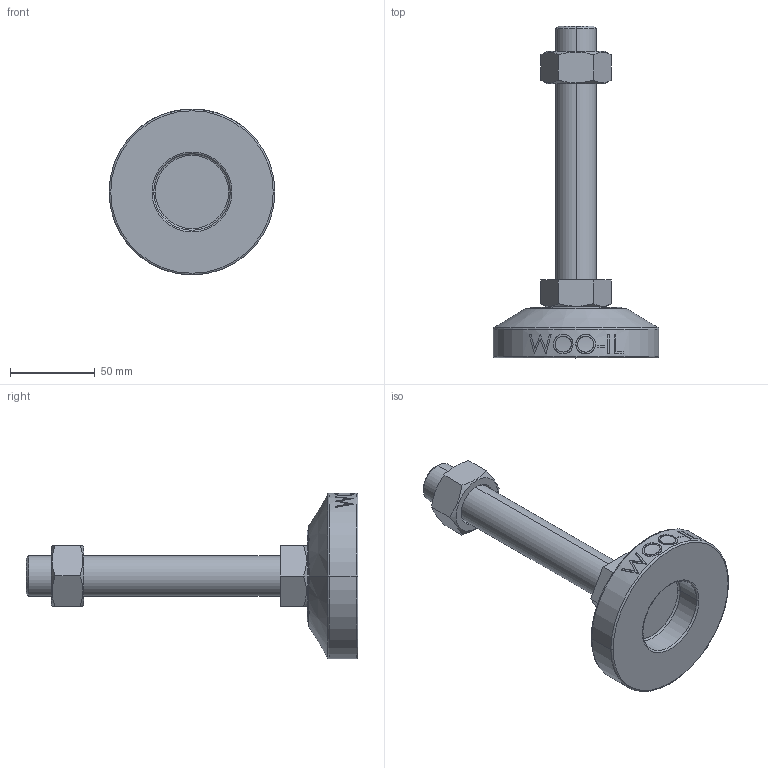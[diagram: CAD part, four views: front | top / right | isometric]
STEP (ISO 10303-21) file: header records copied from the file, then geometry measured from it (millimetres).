
FILE_DESCRIPTION (( 'STEP AP214' ), '1' );
FILE_NAME ('MF98-M24-150.step', '2021-02-03T08:23:29', ( '' ), ( '' ), 'SwSTEP 2.0', 'SolidWorks 2019', '' );
FILE_SCHEMA (( 'AUTOMOTIVE_DESIGN' ));
Length unit declared in the file: millimetre
Products named in the file (2): MF98-M24-150
Bounding box: 98 x 196 x 98 mm (x, y, z)
Volume: 264822 mm3; surface area: 43669.2 mm2
Topology: 3 solids, 3 shells, 106 faces, 247 edges, 158 vertices
Faces by surface type: plane 48, cylinder 18, bspline 16, cone 14, torus 10
Entity records: 4734 total; most frequent: CARTESIAN_POINT 2371, ORIENTED_EDGE 494, DIRECTION 439, EDGE_CURVE 247, AXIS2_PLACEMENT_3D 170, VERTEX_POINT 158, EDGE_LOOP 119, ADVANCED_FACE 106
